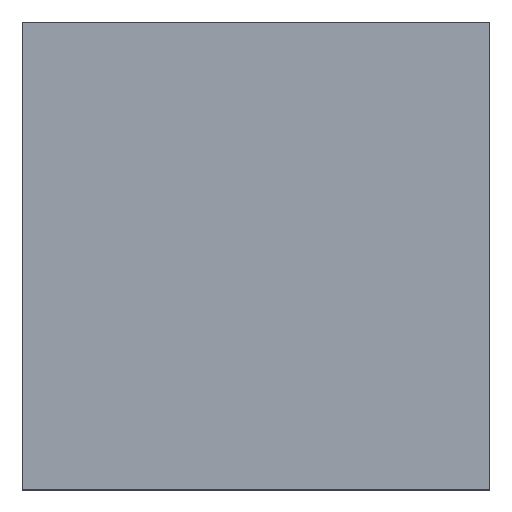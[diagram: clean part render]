
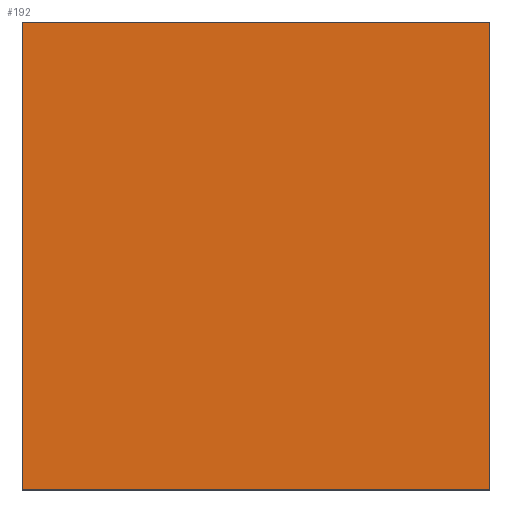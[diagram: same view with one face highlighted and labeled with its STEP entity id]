
A CAD part, top view. The second image highlights one B-rep face of the part: STEP entity #192.
In plain terms, the highlighted planar face has unit normal (0, 0, 1).
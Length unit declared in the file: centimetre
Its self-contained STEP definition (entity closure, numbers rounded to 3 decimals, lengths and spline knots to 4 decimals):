
#27 = DIRECTION ( 'NONE',  ( 1., 0., 0. ) ) ;
#29 = CARTESIAN_POINT ( 'NONE',  ( 1000., 0., 1000. ) ) ;
#71 = CARTESIAN_POINT ( 'NONE',  ( 1000., 1000., 1000. ) ) ;
#75 = CARTESIAN_POINT ( 'NONE',  ( 0., 0., 1000. ) ) ;
#77 = CARTESIAN_POINT ( 'NONE',  ( 0., 1000., 1000. ) ) ;
#95 = ORIENTED_EDGE ( 'NONE', *, *, #476, .T. ) ;
#99 = EDGE_CURVE ( 'NONE', #386, #343, #368, .T. ) ;
#117 = VECTOR ( 'NONE', #27, 100. ) ;
#124 = FACE_OUTER_BOUND ( 'NONE', #264, .T. ) ;
#126 = EDGE_CURVE ( 'NONE', #292, #582, #509, .T. ) ;
#131 = DIRECTION ( 'NONE',  ( 0., 0., 1. ) ) ;
#135 = LINE ( 'NONE', #77, #507 ) ;
#159 = CARTESIAN_POINT ( 'NONE',  ( 0., 1000., 1000. ) ) ;
#179 = LINE ( 'NONE', #467, #341 ) ;
#185 = CARTESIAN_POINT ( 'NONE',  ( 0., 0., 1000. ) ) ;
#192 = ADVANCED_FACE ( 'NONE', ( #124 ), #615, .T. ) ;
#225 = CARTESIAN_POINT ( 'NONE',  ( 0., 1000., 1000. ) ) ;
#228 = AXIS2_PLACEMENT_3D ( 'NONE', #185, #131, #466 ) ;
#258 = ORIENTED_EDGE ( 'NONE', *, *, #99, .T. ) ;
#264 = EDGE_LOOP ( 'NONE', ( #390, #355, #95, #258 ) ) ;
#280 = DIRECTION ( 'NONE',  ( 0., -1., 0. ) ) ;
#289 = DIRECTION ( 'NONE',  ( 0., 1., 0. ) ) ;
#292 = VERTEX_POINT ( 'NONE', #361 ) ;
#310 = DIRECTION ( 'NONE',  ( -1., 0., 0. ) ) ;
#341 = VECTOR ( 'NONE', #289, 100. ) ;
#343 = VERTEX_POINT ( 'NONE', #159 ) ;
#355 = ORIENTED_EDGE ( 'NONE', *, *, #126, .T. ) ;
#361 = CARTESIAN_POINT ( 'NONE',  ( 0., 0., 1000. ) ) ;
#368 = LINE ( 'NONE', #225, #603 ) ;
#386 = VERTEX_POINT ( 'NONE', #71 ) ;
#390 = ORIENTED_EDGE ( 'NONE', *, *, #571, .T. ) ;
#466 = DIRECTION ( 'NONE',  ( 1., 0., 0. ) ) ;
#467 = CARTESIAN_POINT ( 'NONE',  ( 1000., 1000., 1000. ) ) ;
#476 = EDGE_CURVE ( 'NONE', #582, #386, #179, .T. ) ;
#507 = VECTOR ( 'NONE', #280, 100. ) ;
#509 = LINE ( 'NONE', #75, #117 ) ;
#571 = EDGE_CURVE ( 'NONE', #343, #292, #135, .T. ) ;
#582 = VERTEX_POINT ( 'NONE', #29 ) ;
#603 = VECTOR ( 'NONE', #310, 100. ) ;
#615 = PLANE ( 'NONE',  #228 ) ;
